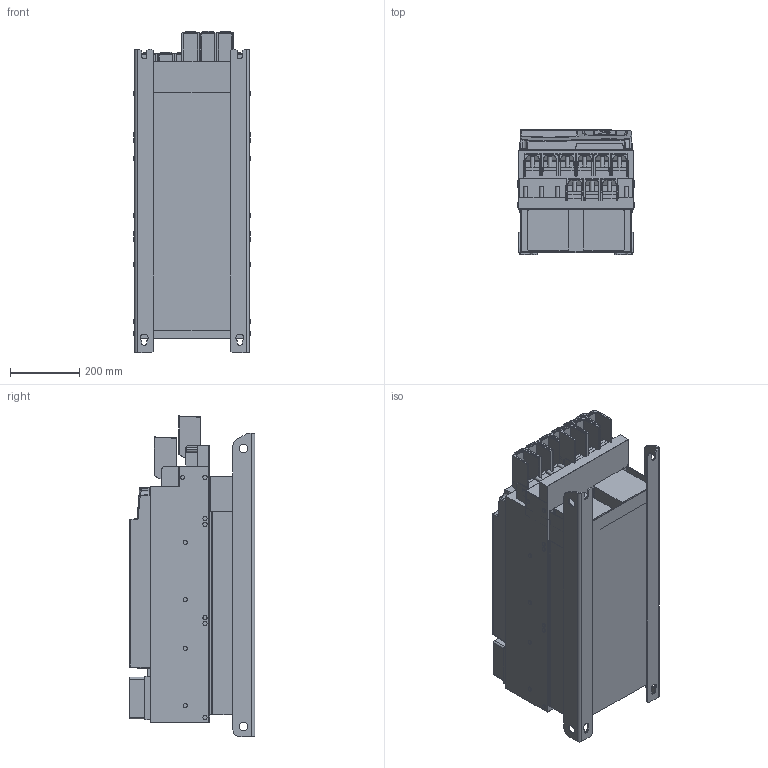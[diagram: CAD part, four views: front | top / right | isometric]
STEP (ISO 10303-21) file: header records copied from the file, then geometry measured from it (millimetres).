
FILE_DESCRIPTION (( 'STEP AP214' ), '1' );
FILE_NAME ('F6-8 TR0-A030.STEP', '2021-02-26T13:26:53', ( '' ), ( '' ), 'SwSTEP 2.0', 'SolidWorks 2019', '' );
FILE_SCHEMA (( 'AUTOMOTIVE_DESIGN' ));
Length unit declared in the file: millimetre
Products named in the file (15): 10038044_000_Kundemodell; 10063199_000; 10044088_000_Kundenmodell; 10061505_000; 10063231_000; 10059764_000_Blindabdeckung (Kundenmodell); 10063180_000; 10063225_000; 10062314_000_Kundenmodell; 10035736_000_Kundenmodell; 10059765_000; 10059763_000; 10040552_000_Kundenmodell; 10047771_000_Kundenmodell; F6-8 TR0-A030
Assembly tree (14 placements, depth 4):
  F6-8 TR0-A030
    10062314_000_Kundenmodell
      10038044_000_Kundemodell
        10063180_000
      10063231_000
    10040552_000_Kundenmodell
      10047771_000_Kundenmodell
        10063225_000
      10063199_000
    10035736_000_Kundenmodell
      10059764_000_Blindabdeckung (Kundenmodell)
        10059765_000
      10059763_000
    10044088_000_Kundenmodell
      10061505_000
Bounding box: 335.5 x 361.9 x 926.36 mm (x, y, z)
Volume: 83687824.3 mm3; surface area: 3173474.8 mm2
Topology: 7 solids, 31 shells, 3061 faces, 7819 edges, 4857 vertices
Faces by surface type: plane 1644, cylinder 849, bspline 241, sphere 154, cone 104, torus 69
Entity records: 98786 total; most frequent: CARTESIAN_POINT 26006, ORIENTED_EDGE 15416, DIRECTION 14331, EDGE_CURVE 7708, LINE 5049, VECTOR 5049, VERTEX_POINT 4854, AXIS2_PLACEMENT_3D 4641
